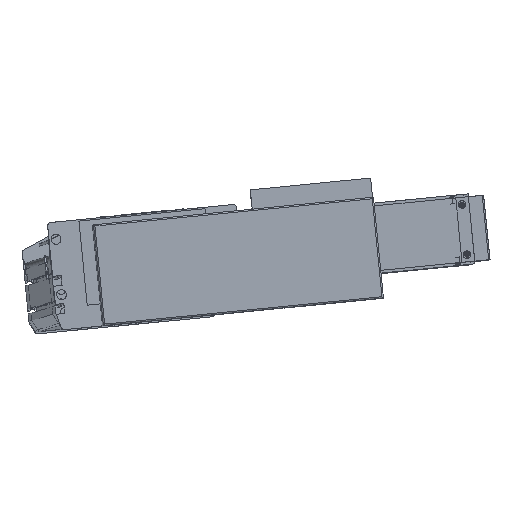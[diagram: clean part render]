
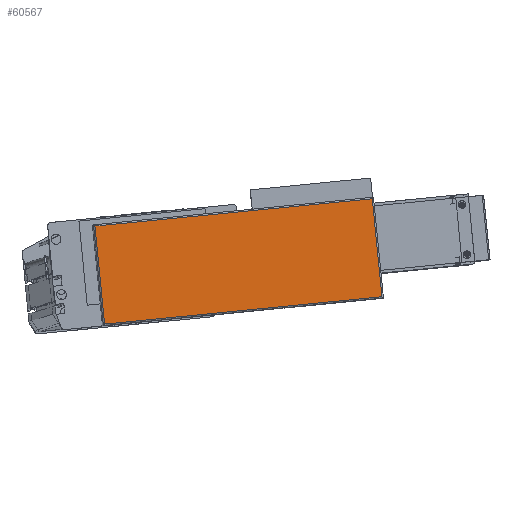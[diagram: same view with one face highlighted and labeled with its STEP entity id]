
A CAD part, top view. The second image highlights one B-rep face of the part: STEP entity #60567.
In plain terms, the highlighted planar face has unit normal (0.017, 0.003, 1) as drawn and (0, 0, 1) by its records, which use the part's own axes.
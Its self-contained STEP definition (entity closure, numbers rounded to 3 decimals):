
#13946 = DIRECTION ( 'NONE',  ( 1., 0., 0. ) ) ;
#13947 = VECTOR ( 'NONE', #13946, 1000. ) ;
#13948 = CARTESIAN_POINT ( 'NONE',  ( 164.25, 1., 44. ) ) ;
#13949 = LINE ( 'NONE', #13948, #13947 ) ;
#13955 = CARTESIAN_POINT ( 'NONE',  ( -34.75, 0., 44. ) ) ;
#13956 = DIRECTION ( 'NONE',  ( -1., 0., 0. ) ) ;
#13957 = VECTOR ( 'NONE', #13956, 1000. ) ;
#13964 = CARTESIAN_POINT ( 'NONE',  ( -35.75, 71., 44. ) ) ;
#13965 = LINE ( 'NONE', #13964, #13957 ) ;
#13967 = CARTESIAN_POINT ( 'NONE',  ( 163.25, 71., 44. ) ) ;
#13968 = DIRECTION ( 'NONE',  ( 0., 1., 0. ) ) ;
#13969 = VECTOR ( 'NONE', #13968, 1000. ) ;
#13970 = CARTESIAN_POINT ( 'NONE',  ( 163.25, 72., 44. ) ) ;
#13971 = LINE ( 'NONE', #13970, #13969 ) ;
#13972 = LINE ( 'NONE', #13955, #14014 ) ;
#13978 = CARTESIAN_POINT ( 'NONE',  ( -34.75, 71., 44. ) ) ;
#14013 = DIRECTION ( 'NONE',  ( 0., -1., 0. ) ) ;
#14014 = VECTOR ( 'NONE', #14013, 1000. ) ;
#14017 = PLANE ( 'NONE',  #14030 ) ;
#14024 = FACE_OUTER_BOUND ( 'NONE', #60622, .T. ) ;
#14030 = AXIS2_PLACEMENT_3D ( 'NONE', #14067, #14066, #14065 ) ;
#14065 = DIRECTION ( 'NONE',  ( 1., 0., 0. ) ) ;
#14066 = DIRECTION ( 'NONE',  ( 0., 0., 1. ) ) ;
#14067 = CARTESIAN_POINT ( 'NONE',  ( -35.75, 0., 44. ) ) ;
#14070 = CARTESIAN_POINT ( 'NONE',  ( 163.25, 1., 44. ) ) ;
#14078 = CARTESIAN_POINT ( 'NONE',  ( -34.75, 1., 44. ) ) ;
#60480 = ORIENTED_EDGE ( 'NONE', *, *, #60528, .T. ) ;
#60503 = EDGE_CURVE ( 'NONE', #60564, #60565, #13949, .T. ) ;
#60519 = EDGE_CURVE ( 'NONE', #60565, #60523, #13971, .T. ) ;
#60521 = VERTEX_POINT ( 'NONE', #13978 ) ;
#60523 = VERTEX_POINT ( 'NONE', #13967 ) ;
#60526 = ORIENTED_EDGE ( 'NONE', *, *, #60519, .T. ) ;
#60528 = EDGE_CURVE ( 'NONE', #60523, #60521, #13965, .T. ) ;
#60534 = EDGE_CURVE ( 'NONE', #60521, #60564, #13972, .T. ) ;
#60562 = ORIENTED_EDGE ( 'NONE', *, *, #60503, .T. ) ;
#60564 = VERTEX_POINT ( 'NONE', #14078 ) ;
#60565 = VERTEX_POINT ( 'NONE', #14070 ) ;
#60567 = ADVANCED_FACE ( 'NONE', ( #14024 ), #14017, .T. ) ;
#60583 = ORIENTED_EDGE ( 'NONE', *, *, #60534, .T. ) ;
#60622 = EDGE_LOOP ( 'NONE', ( #60562, #60526, #60480, #60583 ) ) ;
